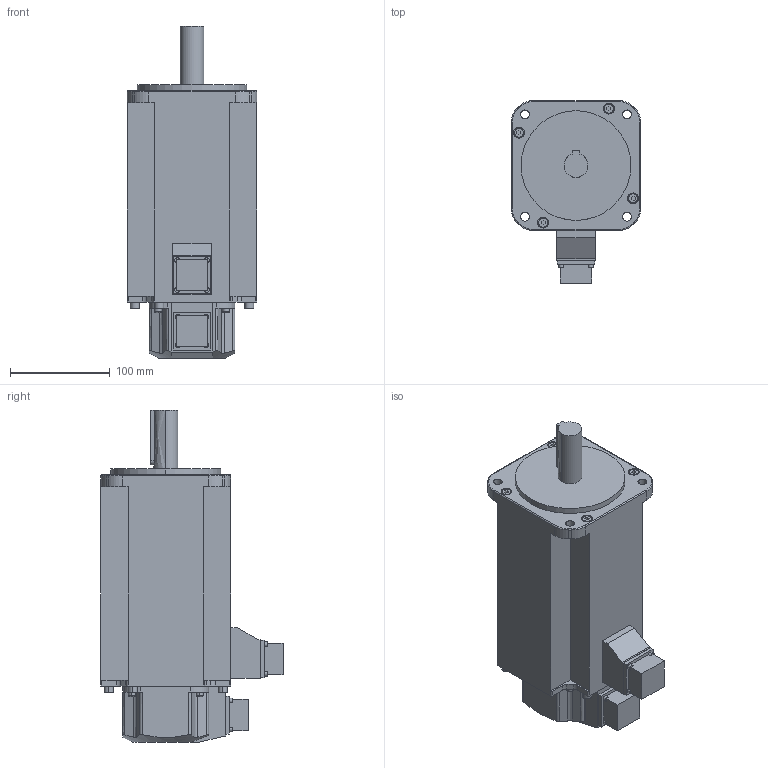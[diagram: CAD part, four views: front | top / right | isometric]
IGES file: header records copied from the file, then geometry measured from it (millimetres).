
Start section:  PTC IGES file: rsms_45ask3.igs
Global section: file name: rsms_45ask3.igs; native system: Pro/ENGINEER by Parametric Technology Corporation; preprocessor: 2004440; author: Administrator; organization: Unknown; date: 070829.195312; units: millimetre
Bounding box: 130 x 182.7 x 333 mm (x, y, z)
Volume: 3554974.6 mm3; surface area: 182704.6 mm2
Topology: 1 solids, 1 shells, 290 faces, 744 edges, 488 vertices
Faces by surface type: bspline 164, revolution 126
